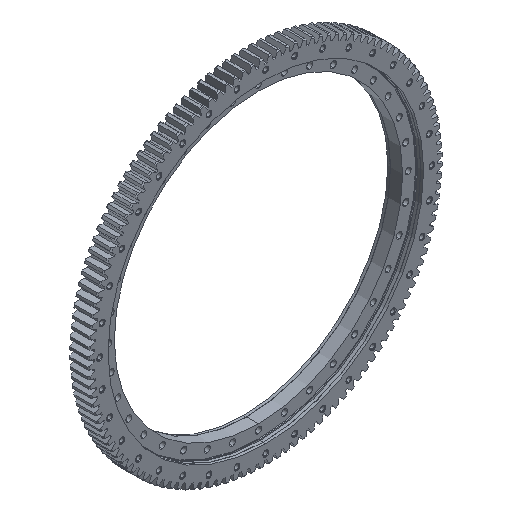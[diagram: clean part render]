
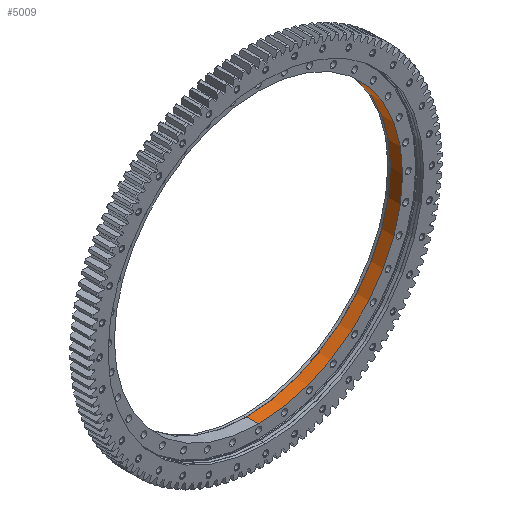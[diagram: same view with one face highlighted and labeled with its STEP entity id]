
A CAD part, isometric view. The second image highlights one B-rep face of the part: STEP entity #5009.
In plain terms, the highlighted cylindrical face has radius 527.5 mm (diameter 1055 mm), a partial arc.
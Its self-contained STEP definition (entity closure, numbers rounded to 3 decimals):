
#1396 = CARTESIAN_POINT ( 'NONE',  ( 0., 38.715, 0. ) ) ;
#1423 = DIRECTION ( 'NONE',  ( 0., -1., 0. ) ) ;
#1598 = DIRECTION ( 'NONE',  ( 0., 0., -1. ) ) ;
#1799 = ORIENTED_EDGE ( 'NONE', *, *, #34078, .T. ) ;
#2404 = DIRECTION ( 'NONE',  ( 0., 0., -1. ) ) ;
#4031 = ORIENTED_EDGE ( 'NONE', *, *, #6471, .F. ) ;
#4458 = AXIS2_PLACEMENT_3D ( 'NONE', #8584, #25120, #2404 ) ;
#5009 = ADVANCED_FACE ( 'NONE', ( #25296 ), #24941, .F. ) ;
#5616 = CARTESIAN_POINT ( 'NONE',  ( 0., 0., 527.5 ) ) ;
#6471 = EDGE_CURVE ( 'NONE', #9799, #34278, #11499, .T. ) ;
#7144 = EDGE_LOOP ( 'NONE', ( #33426, #4031, #1799, #29465 ) ) ;
#8584 = CARTESIAN_POINT ( 'NONE',  ( 0., 0., 0. ) ) ;
#9690 = AXIS2_PLACEMENT_3D ( 'NONE', #26522, #1423, #1598 ) ;
#9799 = VERTEX_POINT ( 'NONE', #32674 ) ;
#10830 = DIRECTION ( 'NONE',  ( 0., -1., 0. ) ) ;
#11499 = CIRCLE ( 'NONE', #27780, 527.5 ) ;
#14838 = CARTESIAN_POINT ( 'NONE',  ( 0., 38.715, 527.5 ) ) ;
#14844 = VECTOR ( 'NONE', #19632, 1000. ) ;
#15032 = LINE ( 'NONE', #5616, #14844 ) ;
#19632 = DIRECTION ( 'NONE',  ( 0., -1., 0. ) ) ;
#23627 = CIRCLE ( 'NONE', #9690, 527.5 ) ;
#24941 = CYLINDRICAL_SURFACE ( 'NONE', #4458, 527.5 ) ;
#25120 = DIRECTION ( 'NONE',  ( 0., -1., 0. ) ) ;
#25296 = FACE_OUTER_BOUND ( 'NONE', #7144, .T. ) ;
#25579 = VERTEX_POINT ( 'NONE', #32263 ) ;
#26522 = CARTESIAN_POINT ( 'NONE',  ( 0., -6.285, 0. ) ) ;
#26778 = CARTESIAN_POINT ( 'NONE',  ( 0., -6.285, -527.5 ) ) ;
#26859 = DIRECTION ( 'NONE',  ( 0., -1., 0. ) ) ;
#27157 = VECTOR ( 'NONE', #10830, 1000. ) ;
#27780 = AXIS2_PLACEMENT_3D ( 'NONE', #1396, #26859, #29426 ) ;
#29426 = DIRECTION ( 'NONE',  ( 0., 0., -1. ) ) ;
#29465 = ORIENTED_EDGE ( 'NONE', *, *, #31803, .T. ) ;
#30510 = CARTESIAN_POINT ( 'NONE',  ( 0., 0., -527.5 ) ) ;
#30546 = EDGE_CURVE ( 'NONE', #34278, #25579, #15032, .T. ) ;
#30689 = LINE ( 'NONE', #30510, #27157 ) ;
#31803 = EDGE_CURVE ( 'NONE', #36065, #25579, #23627, .T. ) ;
#32263 = CARTESIAN_POINT ( 'NONE',  ( 0., -6.285, 527.5 ) ) ;
#32674 = CARTESIAN_POINT ( 'NONE',  ( 0., 38.715, -527.5 ) ) ;
#33426 = ORIENTED_EDGE ( 'NONE', *, *, #30546, .F. ) ;
#34078 = EDGE_CURVE ( 'NONE', #9799, #36065, #30689, .T. ) ;
#34278 = VERTEX_POINT ( 'NONE', #14838 ) ;
#36065 = VERTEX_POINT ( 'NONE', #26778 ) ;
